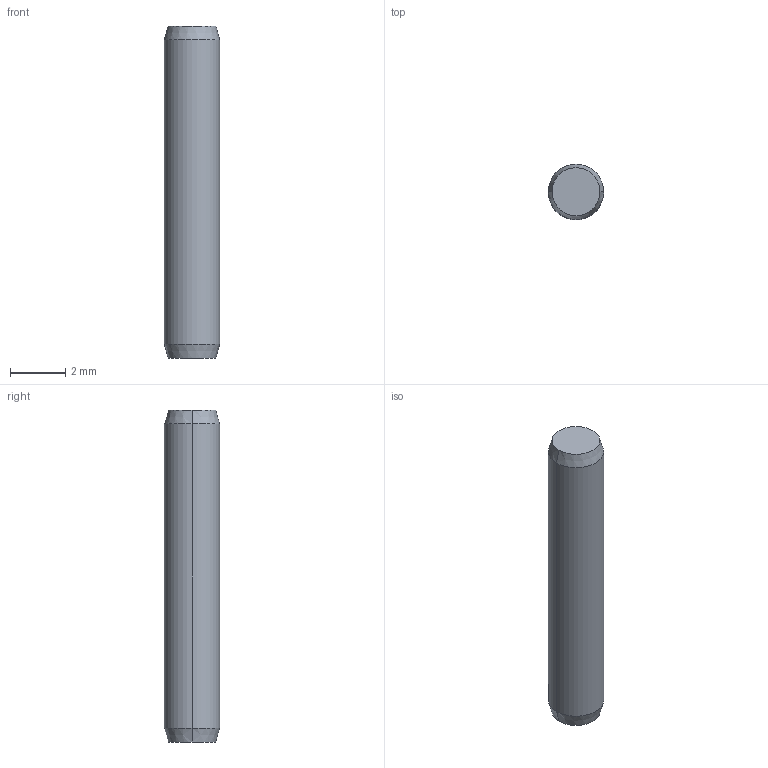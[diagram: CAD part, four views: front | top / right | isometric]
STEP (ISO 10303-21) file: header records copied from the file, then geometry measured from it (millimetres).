
FILE_DESCRIPTION (( 'STEP AP214' ), '1' );
FILE_NAME ('spina di giunzione.STEP', '2016-02-27T11:34:06', ( '' ), ( '' ), 'SwSTEP 2.0', 'SolidWorks 2012', '' );
FILE_SCHEMA (( 'AUTOMOTIVE_DESIGN' ));
Length unit declared in the file: millimetre
Products named in the file (1): spina di giunzione
Bounding box: 2 x 2 x 12 mm (x, y, z)
Volume: 37.3 mm3; surface area: 79.9 mm2
Topology: 1 solids, 1 shells, 8 faces, 14 edges, 8 vertices
Faces by surface type: cone 4, cylinder 2, plane 2
Entity records: 228 total; most frequent: DIRECTION 40, CARTESIAN_POINT 31, ORIENTED_EDGE 28, AXIS2_PLACEMENT_3D 17, EDGE_CURVE 14, EDGE_LOOP 8, FACE_OUTER_BOUND 8, CIRCLE 8
